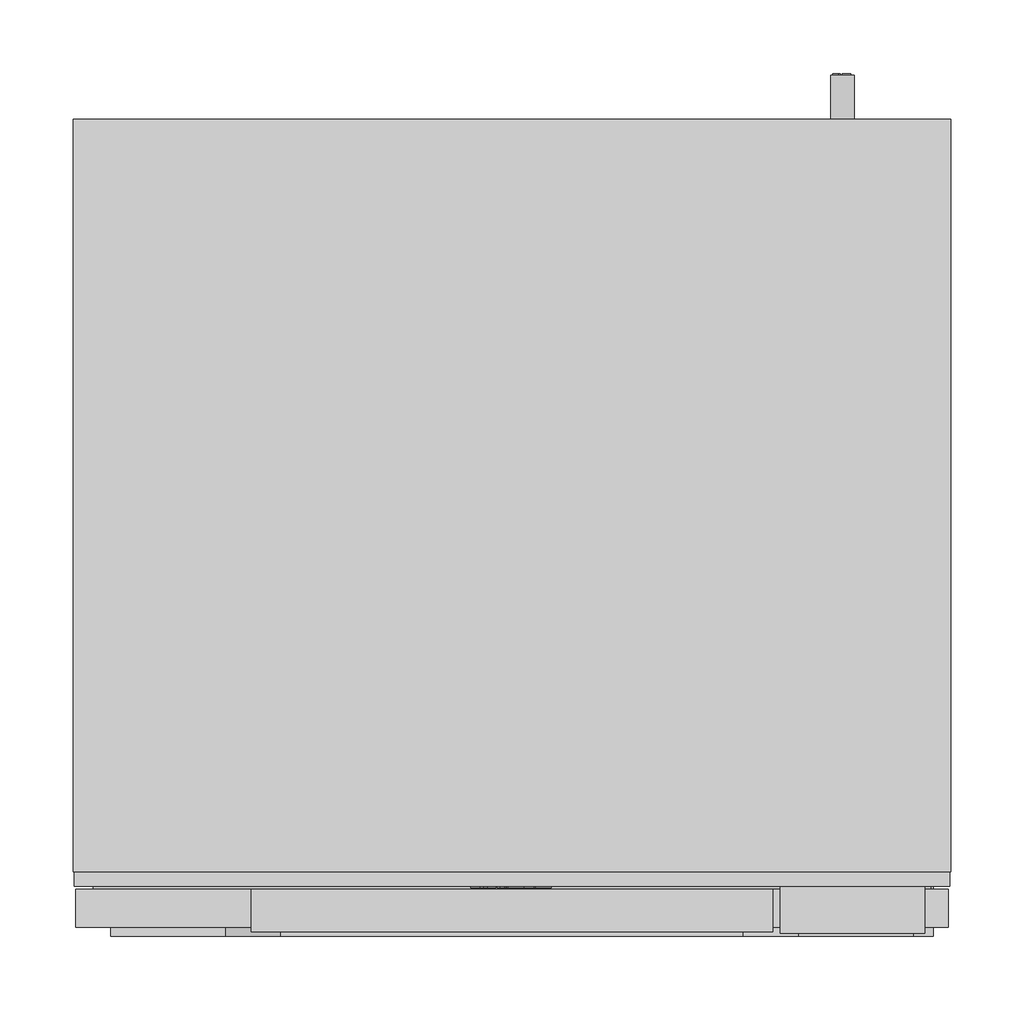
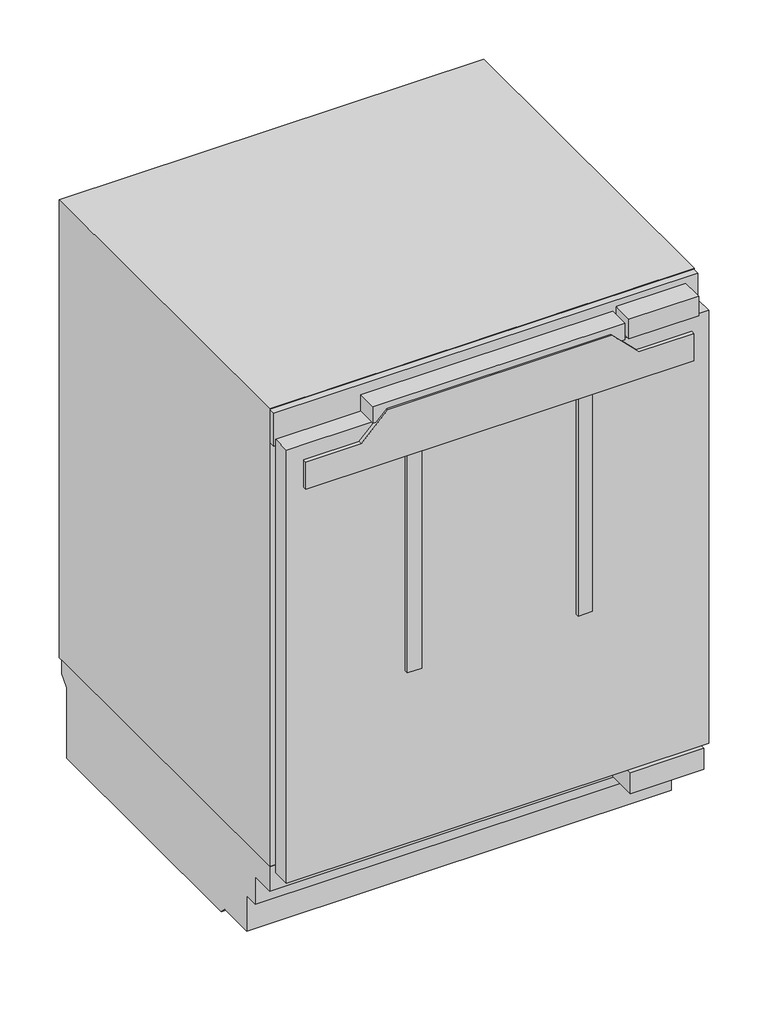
# Not in any storey: 1 proxy.
"""IFC4 building model written with IfcOpenShell, lengths in millimetres."""

from ifc_helpers import new_model, si_unit, origin, place, context, project, spatial, transform, mapped, element, save
from components import specialty_equipment_b4d9bc3e

model = new_model("IFC4")

# Units and contexts
model_context = context("Model", 3, world=origin())
ifc_project = project(units=[si_unit("LENGTHUNIT", "METRE", prefix="MILLI")], contexts=[model_context])

# Site, building
site = spatial("IfcSite", under=ifc_project)
building = spatial("IfcBuilding", under=site)

# Proxy
placement = place(None, origin())
specialty_equipment_shape = specialty_equipment_b4d9bc3e(model_context)
element("IfcBuildingElementProxy", 1, Name="12690480_GB_KU7015D : 36701510_GB_12690480_KU7015D", ObjectType="12690480_GB_KU7015D : 36701510_GB_12690480_KU7015D", at=placement, inside=building, context=model_context, shape_type="MappedRepresentation", body=[
    mapped(specialty_equipment_shape, transform((0.0, 0.0, 0.0), x_axis=(1.0, 0.0, 0.0), y_axis=(0.0, 1.0, 0.0), z_axis=(0.0, 0.0, 1.0))),
])

save(model, "model.ifc")
